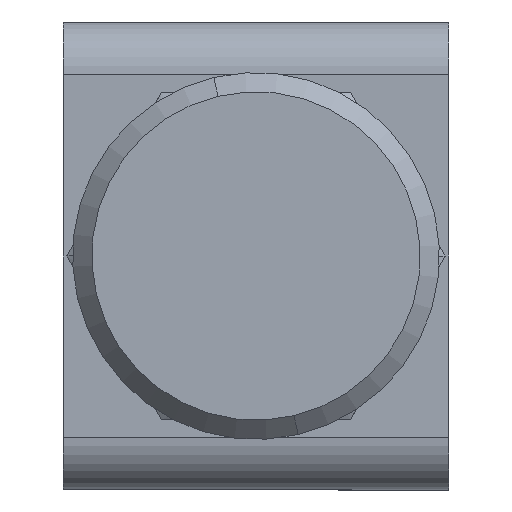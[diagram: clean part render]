
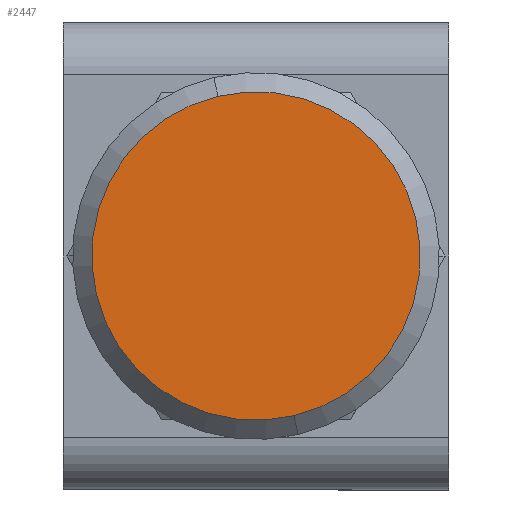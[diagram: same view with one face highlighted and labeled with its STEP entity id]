
A CAD part, front view. The second image highlights one B-rep face of the part: STEP entity #2447.
In plain terms, the highlighted planar face has unit normal (0, -1, 0).
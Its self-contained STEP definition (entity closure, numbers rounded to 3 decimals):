
#204 = AXIS2_PLACEMENT_3D ( 'NONE', #1368, #1383, #1384 ) ;
#368 = CIRCLE ( 'NONE', #373, 8.525 ) ;
#373 = AXIS2_PLACEMENT_3D ( 'NONE', #2223, #2224, #2225 ) ;
#956 = EDGE_CURVE ( 'NONE', #2566, #2564, #1360, .T. ) ;
#1017 = EDGE_CURVE ( 'NONE', #2564, #2566, #368, .T. ) ;
#1360 = CIRCLE ( 'NONE', #1420, 8.525 ) ;
#1368 = CARTESIAN_POINT ( 'NONE',  ( -9.525, 0., 0. ) ) ;
#1378 = FACE_OUTER_BOUND ( 'NONE', #2632, .T. ) ;
#1380 = PLANE ( 'NONE',  #204 ) ;
#1383 = DIRECTION ( 'NONE',  ( 0., -1., 0. ) ) ;
#1384 = DIRECTION ( 'NONE',  ( 0., 0., -1. ) ) ;
#1420 = AXIS2_PLACEMENT_3D ( 'NONE', #1907, #1908, #1909 ) ;
#1589 = CARTESIAN_POINT ( 'NONE',  ( 0., 0., 8.525 ) ) ;
#1591 = CARTESIAN_POINT ( 'NONE',  ( 0., 0., -8.525 ) ) ;
#1907 = CARTESIAN_POINT ( 'NONE',  ( 0., 0., 0. ) ) ;
#1908 = DIRECTION ( 'NONE',  ( 0., -1., 0. ) ) ;
#1909 = DIRECTION ( 'NONE',  ( 0., 0., -1. ) ) ;
#2223 = CARTESIAN_POINT ( 'NONE',  ( 0., 0., 0. ) ) ;
#2224 = DIRECTION ( 'NONE',  ( 0., -1., 0. ) ) ;
#2225 = DIRECTION ( 'NONE',  ( 0., 0., -1. ) ) ;
#2447 = ADVANCED_FACE ( 'NONE', ( #1378 ), #1380, .T. ) ;
#2504 = ORIENTED_EDGE ( 'NONE', *, *, #956, .T. ) ;
#2507 = ORIENTED_EDGE ( 'NONE', *, *, #1017, .T. ) ;
#2564 = VERTEX_POINT ( 'NONE', #1589 ) ;
#2566 = VERTEX_POINT ( 'NONE', #1591 ) ;
#2632 = EDGE_LOOP ( 'NONE', ( #2507, #2504 ) ) ;
